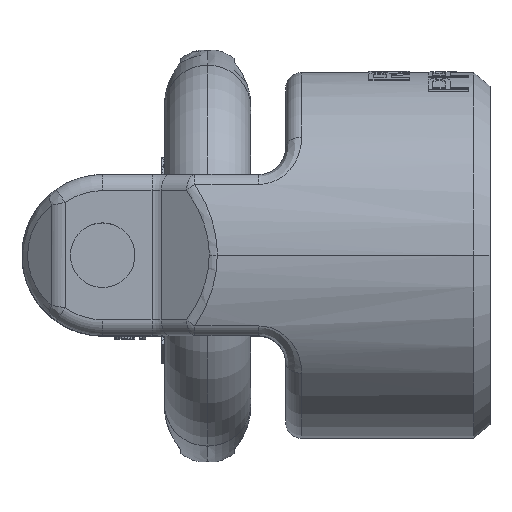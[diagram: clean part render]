
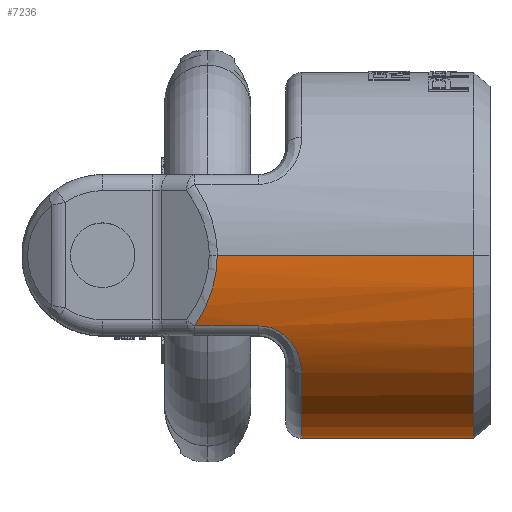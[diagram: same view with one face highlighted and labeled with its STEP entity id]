
A CAD part, top view. The second image highlights one B-rep face of the part: STEP entity #7236.
In plain terms, the highlighted cylindrical face has radius 34 mm (diameter 68 mm), a partial arc.
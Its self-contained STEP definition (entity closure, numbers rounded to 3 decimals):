
#664=DIRECTION('',(1.,0.,0.));
#665=VECTOR('',#664,47.696);
#666=CARTESIAN_POINT('',(36.304,0.,
-34.));
#667=LINE('',#666,#665);
#1113=CARTESIAN_POINT('',(84.,0.,0.));
#1114=DIRECTION('',(1.,0.,0.));
#1115=DIRECTION('',(0.,0.,1.));
#1116=AXIS2_PLACEMENT_3D('',#1113,#1114,#1115);
#1118=CARTESIAN_POINT('',(32.118,-13.161,
-31.349));
#1119=CARTESIAN_POINT('',(32.619,-12.405,
-31.667));
#1120=CARTESIAN_POINT('',(33.516,-10.898,
-32.235));
#1121=CARTESIAN_POINT('',(34.559,-8.696,
-32.895));
#1122=CARTESIAN_POINT('',(35.343,-6.527,
-33.391));
#1123=CARTESIAN_POINT('',(35.893,-4.386,
-33.74));
#1124=CARTESIAN_POINT('',(36.231,-2.186,
-33.954));
#1125=CARTESIAN_POINT('',(36.304,-0.728,
-34.));
#1126=CARTESIAN_POINT('',(36.304,0.,
-34.));
#1128=DIRECTION('',(-1.,0.,0.));
#1129=VECTOR('',#1128,11.882);
#1130=CARTESIAN_POINT('',(44.,-13.161,
-31.349));
#1131=LINE('',#1130,#1129);
#1132=CARTESIAN_POINT('',(52.,-21.935,-25.978));
#1133=CARTESIAN_POINT('',(52.,-21.692,
-26.183));
#1134=CARTESIAN_POINT('',(51.981,-21.215,
-26.574));
#1135=CARTESIAN_POINT('',(51.906,-20.543,
-27.096));
#1136=CARTESIAN_POINT('',(51.789,-19.898,
-27.573));
#1137=CARTESIAN_POINT('',(51.629,-19.269,
-28.016));
#1138=CARTESIAN_POINT('',(51.423,-18.642,
-28.437));
#1139=CARTESIAN_POINT('',(51.164,-18.007,
-28.843));
#1140=CARTESIAN_POINT('',(50.834,-17.355,
-29.24));
#1141=CARTESIAN_POINT('',(50.495,-16.799,
-29.562));
#1142=CARTESIAN_POINT('',(50.112,-16.259,
-29.863));
#1143=CARTESIAN_POINT('',(49.645,-15.703,
-30.158));
#1144=CARTESIAN_POINT('',(49.159,-15.217,
-30.406));
#1145=CARTESIAN_POINT('',(48.644,-14.779,
-30.621));
#1146=CARTESIAN_POINT('',(48.088,-14.381,
-30.81));
#1147=CARTESIAN_POINT('',(47.496,-14.032,
-30.97));
#1148=CARTESIAN_POINT('',(46.875,-13.736,
-31.102));
#1149=CARTESIAN_POINT('',(46.221,-13.495,
-31.208));
#1150=CARTESIAN_POINT('',(45.528,-13.311,
-31.286));
#1151=CARTESIAN_POINT('',(44.793,-13.191,
-31.337));
#1152=CARTESIAN_POINT('',(44.27,-13.161,
-31.349));
#1153=CARTESIAN_POINT('',(44.,-13.161,
-31.349));
#1155=CARTESIAN_POINT('',(52.,0.,0.));
#1156=DIRECTION('',(1.,0.,0.));
#1157=DIRECTION('',(0.,-0.645,0.764));
#1158=AXIS2_PLACEMENT_3D('',#1155,#1156,#1157);
#1160=CARTESIAN_POINT('',(44.,-13.161,31.349));
#1161=CARTESIAN_POINT('',(44.273,-13.161,31.349));
#1162=CARTESIAN_POINT('',(44.802,-13.192,31.337));
#1163=CARTESIAN_POINT('',(45.542,-13.313,31.285));
#1164=CARTESIAN_POINT('',(46.239,-13.5,31.205));
#1165=CARTESIAN_POINT('',(46.897,-13.745,31.098));
#1166=CARTESIAN_POINT('',(47.523,-14.046,30.964));
#1167=CARTESIAN_POINT('',(48.12,-14.402,30.8));
#1168=CARTESIAN_POINT('',(48.678,-14.805,30.608));
#1169=CARTESIAN_POINT('',(49.187,-15.243,30.393));
#1170=CARTESIAN_POINT('',(49.664,-15.725,30.147));
#1171=CARTESIAN_POINT('',(50.122,-16.272,29.855));
#1172=CARTESIAN_POINT('',(50.501,-16.808,29.557));
#1173=CARTESIAN_POINT('',(50.844,-17.373,29.229));
#1174=CARTESIAN_POINT('',(51.171,-18.022,28.834));
#1175=CARTESIAN_POINT('',(51.43,-18.659,28.426));
#1176=CARTESIAN_POINT('',(51.635,-19.289,28.002));
#1177=CARTESIAN_POINT('',(51.793,-19.918,27.559));
#1178=CARTESIAN_POINT('',(51.908,-20.559,27.084));
#1179=CARTESIAN_POINT('',(51.982,-21.223,26.567));
#1180=CARTESIAN_POINT('',(52.,-21.695,26.181));
#1181=CARTESIAN_POINT('',(52.,-21.935,25.978));
#1183=DIRECTION('',(1.,0.,0.));
#1184=VECTOR('',#1183,11.882);
#1185=CARTESIAN_POINT('',(32.118,-13.161,31.349));
#1186=LINE('',#1185,#1184);
#1187=CARTESIAN_POINT('',(36.304,0.,
34.));
#1188=CARTESIAN_POINT('',(36.304,-0.676,
34.));
#1189=CARTESIAN_POINT('',(36.24,-2.046,33.96));
#1190=CARTESIAN_POINT('',(35.939,-4.143,33.769));
#1191=CARTESIAN_POINT('',(35.416,-6.288,33.438));
#1192=CARTESIAN_POINT('',(34.644,-8.498,32.949));
#1193=CARTESIAN_POINT('',(33.563,-10.819,32.264));
#1194=CARTESIAN_POINT('',(32.636,-12.379,31.678));
#1195=CARTESIAN_POINT('',(32.118,-13.161,31.349));
#1197=DIRECTION('',(1.,0.,0.));
#1198=VECTOR('',#1197,47.696);
#1199=CARTESIAN_POINT('',(36.304,0.,
34.));
#1200=LINE('',#1199,#1198);
#4947=CARTESIAN_POINT('',(36.304,0.,34.));
#4949=VERTEX_POINT('',#4947);
#4951=CARTESIAN_POINT('',(36.304,0.,
-34.));
#4953=VERTEX_POINT('',#4951);
#4957=VERTEX_POINT('',#1160);
#4958=VERTEX_POINT('',#1181);
#4959=CARTESIAN_POINT('',(32.118,-13.161,31.349));
#4960=VERTEX_POINT('',#4959);
#4983=VERTEX_POINT('',#1132);
#4984=VERTEX_POINT('',#1153);
#4989=CARTESIAN_POINT('',(32.118,-13.161,
-31.349));
#4990=VERTEX_POINT('',#4989);
#6021=CARTESIAN_POINT('',(84.,0.,-34.));
#6022=CARTESIAN_POINT('',(84.,0.,34.));
#6023=VERTEX_POINT('',#6021);
#6024=VERTEX_POINT('',#6022);
#7212=CARTESIAN_POINT('',(0.,0.,0.));
#7213=DIRECTION('',(1.,0.,0.));
#7214=DIRECTION('',(0.,0.,-1.));
#7215=AXIS2_PLACEMENT_3D('',#7212,#7213,#7214);
#7216=CYLINDRICAL_SURFACE('',#7215,34.);
#7217=ORIENTED_EDGE('',*,*,#6045,.T.);
#7218=ORIENTED_EDGE('',*,*,#6087,.F.);
#7220=ORIENTED_EDGE('',*,*,#7219,.F.);
#7222=ORIENTED_EDGE('',*,*,#7221,.F.);
#7224=ORIENTED_EDGE('',*,*,#7223,.F.);
#7226=ORIENTED_EDGE('',*,*,#7225,.F.);
#7228=ORIENTED_EDGE('',*,*,#7227,.F.);
#7230=ORIENTED_EDGE('',*,*,#7229,.F.);
#7232=ORIENTED_EDGE('',*,*,#7231,.F.);
#7233=ORIENTED_EDGE('',*,*,#6071,.T.);
#7234=EDGE_LOOP('',(#7217,#7218,#7220,#7222,#7224,#7226,#7228,#7230,#7232,
#7233));
#7235=FACE_OUTER_BOUND('',#7234,.F.);
#7236=ADVANCED_FACE('',(#7235),#7216,.T.);
#1117=CIRCLE('',#1116,34.);
#1127=B_SPLINE_CURVE_WITH_KNOTS('',3,(#1118,#1119,#1120,#1121,#1122,#1123,#1124,
#1125,#1126),.UNSPECIFIED.,.F.,.F.,(4,1,1,1,1,1,4),(0.,0.167,
0.333,0.5,0.667,0.833,1.),
.UNSPECIFIED.);
#1154=B_SPLINE_CURVE_WITH_KNOTS('',3,(#1132,#1133,#1134,#1135,#1136,#1137,#1138,
#1139,#1140,#1141,#1142,#1143,#1144,#1145,#1146,#1147,#1148,#1149,#1150,#1151,
#1152,#1153),.UNSPECIFIED.,.F.,.F.,(4,1,1,1,1,1,1,1,1,1,1,1,1,1,1,1,1,1,1,4),(
0.,0.053,0.105,0.158,0.211,
0.263,0.316,0.368,0.421,
0.474,0.526,0.579,0.632,
0.684,0.737,0.789,0.842,
0.895,0.947,1.),.UNSPECIFIED.);
#1159=CIRCLE('',#1158,34.);
#1182=B_SPLINE_CURVE_WITH_KNOTS('',3,(#1160,#1161,#1162,#1163,#1164,#1165,#1166,
#1167,#1168,#1169,#1170,#1171,#1172,#1173,#1174,#1175,#1176,#1177,#1178,#1179,
#1180,#1181),.UNSPECIFIED.,.F.,.F.,(4,1,1,1,1,1,1,1,1,1,1,1,1,1,1,1,1,1,1,4),(
0.,0.053,0.105,0.158,0.211,
0.263,0.316,0.368,0.421,
0.474,0.526,0.579,0.632,
0.684,0.737,0.789,0.842,
0.895,0.947,1.),.UNSPECIFIED.);
#1196=B_SPLINE_CURVE_WITH_KNOTS('',3,(#1187,#1188,#1189,#1190,#1191,#1192,#1193,
#1194,#1195),.UNSPECIFIED.,.F.,.F.,(4,1,1,1,1,1,4),(0.,0.167,
0.333,0.5,0.667,0.833,1.),
.UNSPECIFIED.);
#6045=EDGE_CURVE('',#6024,#6023,#1117,.T.);
#6071=EDGE_CURVE('',#4949,#6024,#1200,.T.);
#6087=EDGE_CURVE('',#4953,#6023,#667,.T.);
#7219=EDGE_CURVE('',#4990,#4953,#1127,.T.);
#7221=EDGE_CURVE('',#4984,#4990,#1131,.T.);
#7223=EDGE_CURVE('',#4983,#4984,#1154,.T.);
#7225=EDGE_CURVE('',#4958,#4983,#1159,.T.);
#7227=EDGE_CURVE('',#4957,#4958,#1182,.T.);
#7229=EDGE_CURVE('',#4960,#4957,#1186,.T.);
#7231=EDGE_CURVE('',#4949,#4960,#1196,.T.);
